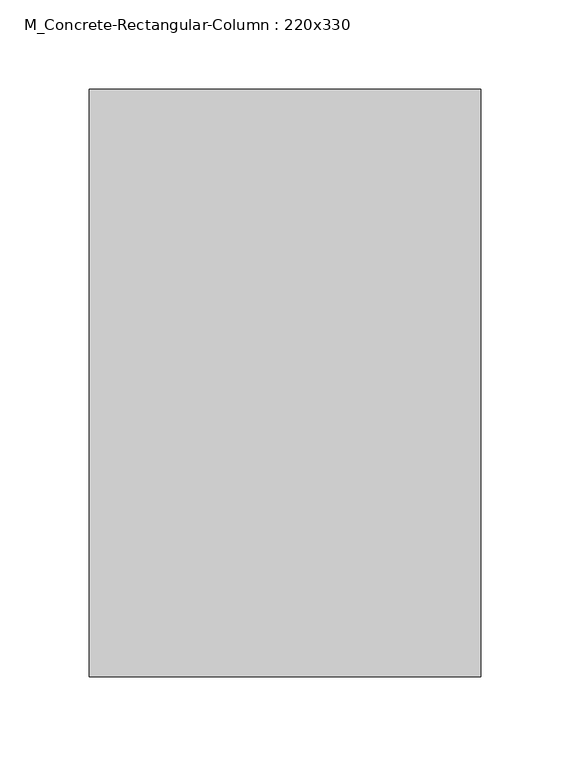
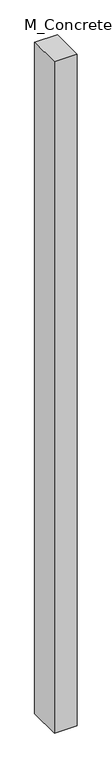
"""IFC4 building model written with IfcOpenShell, lengths in millimetres: column geometry, M_Concrete-Rectangular-Column : 220x330."""

from ifc_helpers import new_model, si_unit, frame, origin, place, context, project, spatial, polyline, outline, extrude, source, transform, mapped, element, save


def m_concrete_rectangular_column_220x330_fb17bf0c(model_context):
    return source(origin(), model_context, "Body", "SweptSolid", [
        extrude(outline(polyline([(110.0, 165.0), (110.0, -165.0), (-110.0, -165.0), (-110.0, 165.0), (110.0, 165.0)])), frame((0.0, 0.0, 4100.0), z_axis=(0.0, 0.0, 1.0), x_axis=(1.0, 0.0, 0.0)), (0.0, 0.0, 1.0), 6890.0),
    ])


if __name__ == "__main__":
    model = new_model("IFC4")
    model_context = context("Model", 3, world=origin())
    ifc_project = project(units=[si_unit("LENGTHUNIT", "METRE", prefix="MILLI")], contexts=[model_context])
    site = spatial("IfcSite", under=ifc_project)
    building = spatial("IfcBuilding", under=site)
    placement = place(None, origin())
    m_concrete_rectangular_column_220x330_shape = m_concrete_rectangular_column_220x330_fb17bf0c(model_context)
    element("IfcColumn", 1, ObjectType="M_Concrete-Rectangular-Column : 220x330", at=placement, inside=building, context=model_context, shape_type="MappedRepresentation", body=[
        mapped(m_concrete_rectangular_column_220x330_shape, transform((0.0, 0.0, 0.0), x_axis=(1.0, 0.0, 0.0), y_axis=(0.0, 1.0, 0.0), z_axis=(0.0, 0.0, 1.0))),
    ])
    save(model, "model.ifc")
